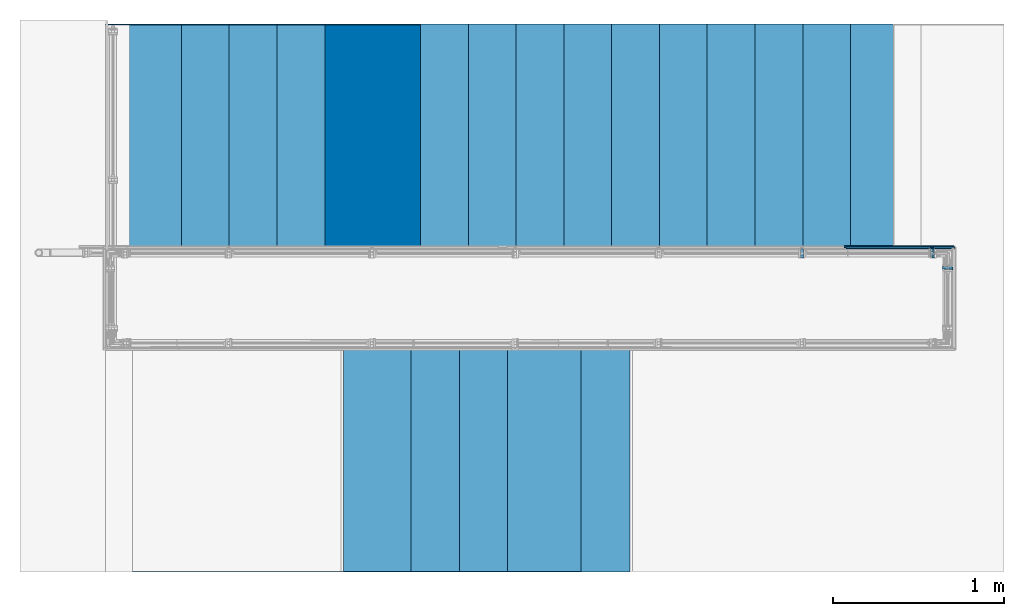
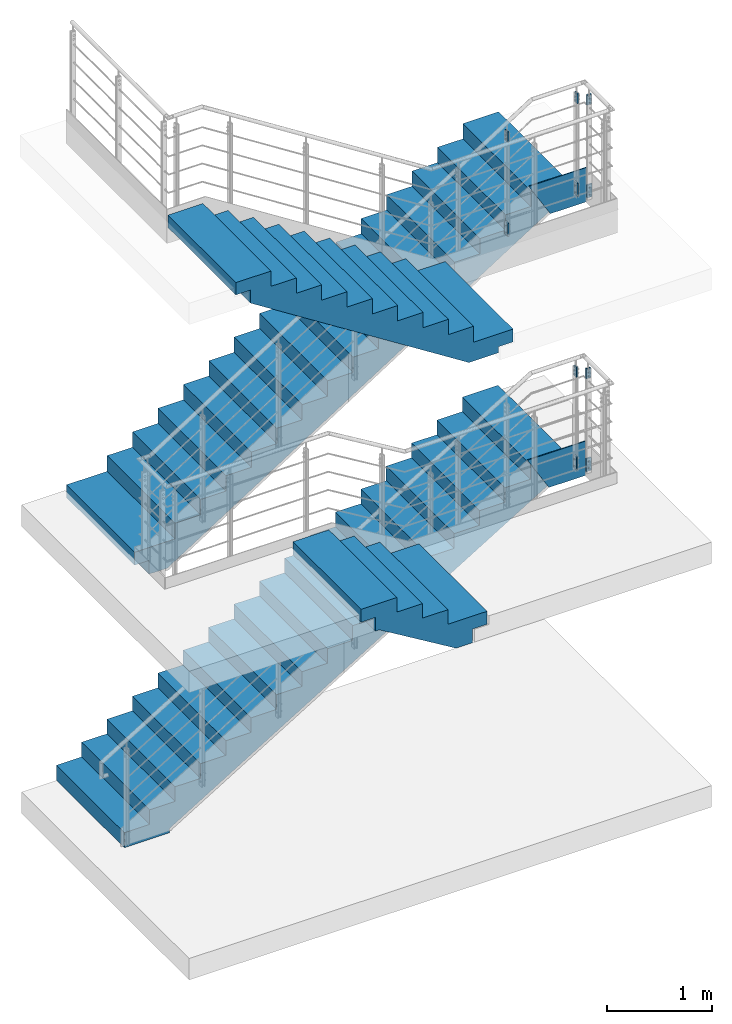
# One storey, part 20 of 98: 12 plates, 4 walls, 36 openings.
"""IFC2X3 building model written with IfcOpenShell, lengths in millimetres."""

import ifcopenshell
import ifcopenshell.guid

model = None  # the IFC model being written
_history = None  # IfcOwnerHistory: only IFC2X3 demands one
_inside = {}  # id of a spatial element -> (the spatial element, [elements in it])
_under = {}  # id of a project, library or spatial element -> (it, [spatial elements below it])
_declared = {}  # id of a project -> (the project, [libraries it declares])
_typed = {}  # id of a type object -> (the type object, [elements of that type])
_made_of = {}  # id of a material, layer set ... -> (it, [elements and type objects made of it])


def new_model(schema):
    """Start an empty IFC model of exactly this schema.

    Asked for "IFC4X3", IfcOpenShell would pick the latest addendum, in which some entities
    have other attributes; the version numbers below select the first issue.
    IFC2X3 requires an IfcOwnerHistory on every rooted entity: one is made here for all.
    """
    global model, _history
    if schema == "IFC4X3":
        model = ifcopenshell.file(schema_version=(4, 3, 0, 0))
    else:
        model = ifcopenshell.file(schema=schema)
    _inside.clear()
    _under.clear()
    _declared.clear()
    _typed.clear()
    _made_of.clear()
    _history = None
    if model.schema == "IFC2X3":
        org = make("IfcOrganization", Name="unknown")
        user = make(
            "IfcPersonAndOrganization",
            ThePerson=make("IfcPerson", FamilyName="unknown"),
            TheOrganization=org,
        )
        app = make(
            "IfcApplication",
            ApplicationDeveloper=org,
            Version="unknown",
            ApplicationFullName="unknown",
            ApplicationIdentifier="unknown",
        )
        _history = make(
            "IfcOwnerHistory",
            OwningUser=user,
            OwningApplication=app,
            ChangeAction="ADDED",
            CreationDate=0,
        )
    return model


def make(cls, **values):
    """One entity of the class cls with the attributes given. An attribute that is None is left unset."""
    return model.create_entity(
        cls, **{name: value for name, value in values.items() if value is not None}
    )


def entity(cls, *values):
    """Any entity or typed value of the class cls, its attributes in the order of the schema. None: left unset."""
    e = model.create_entity(cls)
    for i, value in enumerate(values):
        if value is not None:
            e[i] = value
    return e


def rooted(cls, **values):
    """An entity with a GlobalId (a new one), such as an element, a storey or a relation."""
    return make(cls, GlobalId=ifcopenshell.guid.new(), OwnerHistory=_history, **values)


def si_unit(unit_type, name, prefix=None):
    """IfcSIUnit, for example si_unit("LENGTHUNIT", "METRE", prefix="MILLI")."""
    return make("IfcSIUnit", UnitType=unit_type, Prefix=prefix, Name=name)


def converted_unit(unit_type, name, factor, base, dimensions=None, offset=None):
    """IfcConversionBasedUnit, such as the inch: factor (a typed value) times the base unit."""
    return make(
        "IfcConversionBasedUnit"
        if offset is None
        else "IfcConversionBasedUnitWithOffset",
        ConversionOffset=offset,
        Dimensions=None
        if dimensions is None
        else entity("IfcDimensionalExponents", *dimensions),
        UnitType=unit_type,
        Name=name,
        ConversionFactor=make(
            "IfcMeasureWithUnit", ValueComponent=factor, UnitComponent=base
        ),
    )


def assignment(units):
    """IfcUnitAssignment: the units of a project."""
    return None if units is None else make("IfcUnitAssignment", Units=units)


def point(xyz):
    """IfcCartesianPoint."""
    return None if xyz is None else make("IfcCartesianPoint", Coordinates=xyz)


def direction(xyz):
    """IfcDirection."""
    return None if xyz is None else make("IfcDirection", DirectionRatios=xyz)


def frame(location, z_axis=None, x_axis=None):
    """IfcAxis2Placement3D, a coordinate frame: its origin and axes. An axis left out is left unset."""
    return make(
        "IfcAxis2Placement3D",
        Location=point(location),
        Axis=direction(z_axis),
        RefDirection=direction(x_axis),
    )


def frame_2d(location, x_axis=None):
    """IfcAxis2Placement2D, a coordinate frame in the plane: its origin and x axis."""
    return make(
        "IfcAxis2Placement2D", Location=point(location), RefDirection=direction(x_axis)
    )


def origin():
    """The frame at (0, 0, 0) with its axes left unset."""
    return frame((0.0, 0.0, 0.0))


def origin_with_axes():
    """The frame at (0, 0, 0) with the z axis (0, 0, 1) and the x axis (1, 0, 0) written out."""
    return frame((0.0, 0.0, 0.0), z_axis=(0.0, 0.0, 1.0), x_axis=(1.0, 0.0, 0.0))


def place(relative_to, where):
    """IfcLocalPlacement: puts the frame where relative to a parent placement (None: the world)."""
    return make(
        "IfcLocalPlacement", PlacementRelTo=relative_to, RelativePlacement=where
    )


def context(
    kind, dimensions, precision=None, world=None, true_north=None, identifier=None
):
    """IfcGeometricRepresentationContext, for example the 3D "Model" context."""
    return make(
        "IfcGeometricRepresentationContext",
        ContextIdentifier=identifier,
        ContextType=kind,
        CoordinateSpaceDimension=dimensions,
        Precision=precision,
        WorldCoordinateSystem=world,
        TrueNorth=true_north,
    )


def project(units=None, contexts=None):
    """IfcProject with its units and contexts."""
    return rooted(
        "IfcProject",
        Name="project",
        RepresentationContexts=contexts,
        UnitsInContext=assignment(units),
    )


def spatial(cls, under=None, at=None, **own):
    """A site, building, storey or space (cls), placed at a placement, below another one or the project."""
    s = rooted(cls, ObjectPlacement=at, **own)
    if under is not None:
        _under.setdefault(under.id(), (under, []))[1].append(s)
    return s


def polyline(points):
    """IfcPolyline through the points."""
    return make("IfcPolyline", Points=[point(p) for p in points])


def profile(cls, at=None, kind="AREA", **sizes):
    """A parametric profile (cls). Its sizes go by their IFC names, for example OverallWidth=200.0."""
    return make(cls, ProfileType=kind, Position=at, **sizes)


def circle(**sizes):
    """IfcCircleProfileDef."""
    return profile("IfcCircleProfileDef", **sizes)


def outline(outer, holes=None, kind="AREA"):
    """IfcArbitraryClosedProfileDef: a profile drawn as a closed curve; with holes, ...WithVoids."""
    if holes is None:
        return make("IfcArbitraryClosedProfileDef", ProfileType=kind, OuterCurve=outer)
    return make(
        "IfcArbitraryProfileDefWithVoids",
        ProfileType=kind,
        OuterCurve=outer,
        InnerCurves=holes,
    )


def extrude(swept, where, along, depth):
    """IfcExtrudedAreaSolid: the profile swept, set in the frame where, extruded along a direction by depth."""
    return make(
        "IfcExtrudedAreaSolid",
        SweptArea=swept,
        Position=where,
        ExtrudedDirection=direction(along),
        Depth=depth,
    )


def shape(context_of_items, identifier, shape_type, items):
    """IfcShapeRepresentation: the items that make up one representation, for example the "Body"."""
    return make(
        "IfcShapeRepresentation",
        ContextOfItems=context_of_items,
        RepresentationIdentifier=identifier,
        RepresentationType=shape_type,
        Items=items,
    )


def material(Name=None, Category=None):
    """IfcMaterial."""
    return make("IfcMaterial", Name=Name, Category=Category)


def layer(
    of_material, thickness, ventilated=None, Name=None, Category=None, Priority=None
):
    """IfcMaterialLayer: one layer of a wall or slab, of a material (None: an air gap)."""
    return make(
        "IfcMaterialLayer",
        Material=of_material,
        LayerThickness=thickness,
        IsVentilated=ventilated,
        Name=Name,
        Category=Category,
        Priority=Priority,
    )


def layer_set(layers, Name=None):
    """IfcMaterialLayerSet."""
    return make("IfcMaterialLayerSet", MaterialLayers=layers, LayerSetName=Name)


def made_of(thing, what):
    """Note that an element or type object is made of a material, layer set ...; save() writes the relation."""
    if what is not None:
        _made_of.setdefault(what.id(), (what, []))[1].append(thing)
    return thing


def element(
    cls,
    number,
    at=None,
    inside=None,
    cuts=None,
    type_object=None,
    material=None,
    context=None,
    identifier="Body",
    shape_type=None,
    held_by="IfcProductDefinitionShape",
    body=None,
    shapes=None,
    **own,
):
    """One element of the class cls, such as IfcWall. Its Tag is "e" and its number.

    at: its placement. inside: the storey or other place that contains it. cuts: it is an
    opening in that element (IfcRelVoidsElement). A single representation is given by context,
    identifier, shape_type and body (its items); several are given by shapes. held_by: the class
    of the entity that holds the representations. save() writes the other relations.
    """
    e = rooted(cls, Tag="e%d" % number, ObjectPlacement=at, **own)
    if body is not None:
        shapes = [shape(context, identifier, shape_type, body)]
    if shapes is not None:
        e.Representation = make(held_by, Representations=shapes)
    if inside is not None:
        _inside.setdefault(inside.id(), (inside, []))[1].append(e)
    if cuts is not None:
        rooted(
            "IfcRelVoidsElement", RelatingBuildingElement=cuts, RelatedOpeningElement=e
        )
    if type_object is not None:
        _typed.setdefault(type_object.id(), (type_object, []))[1].append(e)
    return made_of(e, material)


def aggregate(whole, parts):
    """IfcRelAggregates: a whole, such as a stair, and the parts it consists of."""
    return rooted("IfcRelAggregates", RelatingObject=whole, RelatedObjects=parts)


def save(model, path):
    """Write the relations noted so far, then the file.

    IfcRelAggregates (storeys below a building ...), IfcRelContainedInSpatialStructure (elements
    in a storey), IfcRelDefinesByType, IfcRelAssociatesMaterial and IfcRelDeclares: one each for
    every whole, place, type object, material and project.
    """
    for whole, parts in _under.values():
        aggregate(whole, parts)
    for where, things in _inside.values():
        rooted(
            "IfcRelContainedInSpatialStructure",
            RelatedElements=things,
            RelatingStructure=where,
        )
    for kind, things in _typed.values():
        rooted("IfcRelDefinesByType", RelatedObjects=things, RelatingType=kind)
    for what, things in _made_of.values():
        rooted("IfcRelAssociatesMaterial", RelatedObjects=things, RelatingMaterial=what)
    for by, libraries in _declared.values():
        rooted("IfcRelDeclares", RelatingContext=by, RelatedDefinitions=libraries)
    model.write(path)


model = new_model("IFC2X3")

# Units and contexts
model_context = context("Model", 3, precision=1e-09, world=origin_with_axes())
ifc_project = project(units=[si_unit("LENGTHUNIT", "METRE", prefix="MILLI"), si_unit("AREAUNIT", "SQUARE_METRE"), si_unit("VOLUMEUNIT", "CUBIC_METRE"), converted_unit("PLANEANGLEUNIT", "DEGREE", entity("IfcPlaneAngleMeasure", 0.01745329), si_unit("PLANEANGLEUNIT", "RADIAN"), dimensions=[0, 0, 0, 0, 0, 0, 0])], contexts=[model_context])

# Site, building, storey
site_placement = place(None, origin_with_axes())
site = spatial("IfcSite", under=ifc_project, at=site_placement, Name="Maybachstra?e 2, 71563 Affalterbach", CompositionType="ELEMENT")
building_placement = place(site_placement, origin_with_axes())
building = spatial("IfcBuilding", under=site, at=building_placement, Name="Struktur 1", CompositionType="ELEMENT")
storey_placement = place(building_placement, origin_with_axes())
storey = spatial("IfcBuildingStorey", under=building, at=storey_placement, Name="Default Storey", CompositionType="ELEMENT", Elevation=0.0)

# Plate, openings
ifc_material_1 = material(Name="1.4301")
ifc_layer_1 = layer(ifc_material_1, 16.0)
ifc_layer_set_1 = layer_set([ifc_layer_1], Name="1.4301")
plate_1_placement = place(None, frame((11383.029157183, -45.0, 6833.877207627), z_axis=(1.0, 0.0, 0.0), x_axis=(0.0, 1.0, 0.0)))
plate_1 = element("IfcPlate", 1, at=plate_1_placement, inside=storey, material=ifc_layer_set_1, Name="-", ObjectType="-", context=model_context, shape_type="SweptSolid", body=[
    extrude(outline(polyline([(-25.0, -57.5), (25.0, -57.5), (25.0, 57.5), (-25.0, 57.5), (-25.0, -57.5)])), origin_with_axes(), (0.0, 0.0, -1.0), 16.0),
])
opening_1_placement = place(plate_1_placement, frame((-8.251, 32.499, 0.1), z_axis=(0.0, 0.0, 1.0), x_axis=(1.0, 0.0, 0.0)))
element("IfcOpeningElement", 2, at=opening_1_placement, cuts=plate_1, ObjectType="Opening", context=model_context, shape_type="SweptSolid", body=[
    extrude(outline(polyline([(0.0, 0.0), (16.502, 0.0), (16.502, 41.42654386), (0.0, 41.42654386), (0.0, 0.0)])), origin(), (0.0, 0.0, -1.0), 16.2),
])
opening_2_placement = place(plate_1_placement, frame((-6.501, 12.5, 0.5), z_axis=(0.0, 0.0, 1.0), x_axis=(1.0, 0.0, 0.0)))
element("IfcOpeningElement", 3, at=opening_2_placement, cuts=plate_1, ObjectType="Opening", context=model_context, shape_type="SweptSolid", body=[
    extrude(circle(Radius=6.501, at=frame_2d((6.501, 0.0), x_axis=(1.0, 0.0))), origin(), (0.0, 0.0, -1.0), 17.0),
])
opening_3_placement = place(plate_1_placement, frame((-6.501, -31.5, 0.5), z_axis=(0.0, 0.0, 1.0), x_axis=(1.0, 0.0, 0.0)))
element("IfcOpeningElement", 4, at=opening_3_placement, cuts=plate_1, ObjectType="Opening", context=model_context, shape_type="SweptSolid", body=[
    extrude(circle(Radius=6.501, at=frame_2d((6.501, 0.0), x_axis=(1.0, 0.0))), origin(), (0.0, 0.0, -1.0), 17.0),
])

ifc_material_2 = material(Name="S235JR")
ifc_layer_2 = layer(ifc_material_2, 16.0)
ifc_layer_set_2 = layer_set([ifc_layer_2], Name="S235JR")
plate_2_placement = place(None, frame((11383.029157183, -42.5, 5748.777207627), z_axis=(-1.0, 0.0, 0.0), x_axis=(0.0, -1.0, 0.0)))
plate_2 = element("IfcPlate", 5, at=plate_2_placement, inside=storey, material=ifc_layer_set_2, Name="-", ObjectType="-", context=model_context, shape_type="SweptSolid", body=[
    extrude(outline(polyline([(-27.5, -75.0), (27.5, -75.0), (27.5, 75.0), (-27.5, 75.0), (-27.5, -75.0)])), origin_with_axes(), (0.0, 0.0, 1.0), 16.0),
])
opening_4_placement = place(plate_2_placement, frame((9.501, 40.0, -0.5), z_axis=(0.0, 0.0, -1.0), x_axis=(-1.0, 0.0, 0.0)))
element("IfcOpeningElement", 6, at=opening_4_placement, cuts=plate_2, ObjectType="Opening", context=model_context, shape_type="SweptSolid", body=[
    extrude(circle(Radius=7.001, at=frame_2d((7.001, 0.0), x_axis=(1.0, 0.0))), origin(), (0.0, 0.0, -1.0), 17.0),
])
opening_5_placement = place(plate_2_placement, frame((9.501, -40.0, -0.5), z_axis=(0.0, 0.0, -1.0), x_axis=(-1.0, 0.0, 0.0)))
element("IfcOpeningElement", 7, at=opening_5_placement, cuts=plate_2, ObjectType="Opening", context=model_context, shape_type="SweptSolid", body=[
    extrude(circle(Radius=7.001, at=frame_2d((7.001, 0.0), x_axis=(1.0, 0.0))), origin(), (0.0, 0.0, -1.0), 17.0),
])

plate_3_placement = place(None, frame((12152.029157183, -45.0, 7012.6), z_axis=(1.0, 0.0, 0.0), x_axis=(0.0, 1.0, 0.0)))
plate_3 = element("IfcPlate", 8, at=plate_3_placement, inside=storey, material=ifc_layer_set_1, Name="-", ObjectType="-", context=model_context, shape_type="SweptSolid", body=[
    extrude(outline(polyline([(-25.0, -57.5), (25.0, -57.5), (25.0, 57.5), (-25.0, 57.5), (-25.0, -57.5)])), origin_with_axes(), (0.0, 0.0, -1.0), 16.0),
])
opening_6_placement = place(plate_3_placement, frame((-8.251, 32.499, 0.1), z_axis=(0.0, 0.0, 1.0), x_axis=(1.0, 0.0, 0.0)))
element("IfcOpeningElement", 9, at=opening_6_placement, cuts=plate_3, ObjectType="Opening", context=model_context, shape_type="SweptSolid", body=[
    extrude(outline(polyline([(0.0, 0.0), (16.502, 0.0), (16.502, 41.42654386), (0.0, 41.42654386), (0.0, 0.0)])), origin(), (0.0, 0.0, -1.0), 16.2),
])
opening_7_placement = place(plate_3_placement, frame((-6.501, 12.5, 0.5), z_axis=(0.0, 0.0, 1.0), x_axis=(1.0, 0.0, 0.0)))
element("IfcOpeningElement", 10, at=opening_7_placement, cuts=plate_3, ObjectType="Opening", context=model_context, shape_type="SweptSolid", body=[
    extrude(circle(Radius=6.501, at=frame_2d((6.501, 0.0), x_axis=(1.0, 0.0))), origin(), (0.0, 0.0, -1.0), 17.0),
])
opening_8_placement = place(plate_3_placement, frame((-6.501, -31.5, 0.5), z_axis=(0.0, 0.0, 1.0), x_axis=(1.0, 0.0, 0.0)))
element("IfcOpeningElement", 11, at=opening_8_placement, cuts=plate_3, ObjectType="Opening", context=model_context, shape_type="SweptSolid", body=[
    extrude(circle(Radius=6.501, at=frame_2d((6.501, 0.0), x_axis=(1.0, 0.0))), origin(), (0.0, 0.0, -1.0), 17.0),
])

plate_4_placement = place(None, frame((12152.029157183, -42.5, 5947.5), z_axis=(-1.0, 0.0, 0.0), x_axis=(0.0, -1.0, 0.0)))
plate_4 = element("IfcPlate", 12, at=plate_4_placement, inside=storey, material=ifc_layer_set_2, Name="-", ObjectType="-", context=model_context, shape_type="SweptSolid", body=[
    extrude(outline(polyline([(-27.5, -75.0), (27.5, -75.0), (27.5, 75.0), (-27.5, 75.0), (-27.5, -75.0)])), origin_with_axes(), (0.0, 0.0, 1.0), 16.0),
])
opening_9_placement = place(plate_4_placement, frame((9.501, 40.0, -0.5), z_axis=(0.0, 0.0, -1.0), x_axis=(-1.0, 0.0, 0.0)))
element("IfcOpeningElement", 13, at=opening_9_placement, cuts=plate_4, ObjectType="Opening", context=model_context, shape_type="SweptSolid", body=[
    extrude(circle(Radius=7.001, at=frame_2d((7.001, 0.0), x_axis=(1.0, 0.0))), origin(), (0.0, 0.0, -1.0), 17.0),
])
opening_10_placement = place(plate_4_placement, frame((9.501, -40.0, -0.5), z_axis=(0.0, 0.0, -1.0), x_axis=(-1.0, 0.0, 0.0)))
element("IfcOpeningElement", 14, at=opening_10_placement, cuts=plate_4, ObjectType="Opening", context=model_context, shape_type="SweptSolid", body=[
    extrude(circle(Radius=7.001, at=frame_2d((7.001, 0.0), x_axis=(1.0, 0.0))), origin(), (0.0, 0.0, -1.0), 17.0),
])

plate_5_placement = place(None, frame((12145.029157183, -40.0, 3820.1), z_axis=(1.0, 0.0, 0.0), x_axis=(0.0, 1.0, 0.0)))
plate_5 = element("IfcPlate", 15, at=plate_5_placement, inside=storey, material=ifc_layer_set_1, Name="-", ObjectType="-", context=model_context, shape_type="SweptSolid", body=[
    extrude(outline(polyline([(-25.0, -57.5), (25.0, -57.5), (25.0, 57.5), (-25.0, 57.5), (-25.0, -57.5)])), origin_with_axes(), (0.0, 0.0, -1.0), 16.0),
])
opening_11_placement = place(plate_5_placement, frame((-8.251, 32.499, 0.1), z_axis=(0.0, 0.0, 1.0), x_axis=(1.0, 0.0, 0.0)))
element("IfcOpeningElement", 16, at=opening_11_placement, cuts=plate_5, ObjectType="Opening", context=model_context, shape_type="SweptSolid", body=[
    extrude(outline(polyline([(0.0, 0.0), (16.502, 0.0), (16.502, 41.42654386), (0.0, 41.42654386), (0.0, 0.0)])), origin(), (0.0, 0.0, -1.0), 16.2),
])
opening_12_placement = place(plate_5_placement, frame((-6.501, 12.5, 0.5), z_axis=(0.0, 0.0, 1.0), x_axis=(1.0, 0.0, 0.0)))
element("IfcOpeningElement", 17, at=opening_12_placement, cuts=plate_5, ObjectType="Opening", context=model_context, shape_type="SweptSolid", body=[
    extrude(circle(Radius=6.501, at=frame_2d((6.501, 0.0), x_axis=(1.0, 0.0))), origin(), (0.0, 0.0, -1.0), 17.0),
])
opening_13_placement = place(plate_5_placement, frame((-6.501, -31.5, 0.5), z_axis=(0.0, 0.0, 1.0), x_axis=(1.0, 0.0, 0.0)))
element("IfcOpeningElement", 18, at=opening_13_placement, cuts=plate_5, ObjectType="Opening", context=model_context, shape_type="SweptSolid", body=[
    extrude(circle(Radius=6.501, at=frame_2d((6.501, 0.0), x_axis=(1.0, 0.0))), origin(), (0.0, 0.0, -1.0), 17.0),
])

plate_6_placement = place(None, frame((12145.029157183, -37.5, 2755.0), z_axis=(-1.0, 0.0, 0.0), x_axis=(0.0, -1.0, 0.0)))
plate_6 = element("IfcPlate", 19, at=plate_6_placement, inside=storey, material=ifc_layer_set_2, Name="-", ObjectType="-", context=model_context, shape_type="SweptSolid", body=[
    extrude(outline(polyline([(-27.5, -75.0), (27.5, -75.0), (27.5, 75.0), (-27.5, 75.0), (-27.5, -75.0)])), origin_with_axes(), (0.0, 0.0, 1.0), 16.0),
])
opening_14_placement = place(plate_6_placement, frame((9.501, 40.0, -0.5), z_axis=(0.0, 0.0, -1.0), x_axis=(-1.0, 0.0, 0.0)))
element("IfcOpeningElement", 20, at=opening_14_placement, cuts=plate_6, ObjectType="Opening", context=model_context, shape_type="SweptSolid", body=[
    extrude(circle(Radius=7.001, at=frame_2d((7.001, 0.0), x_axis=(1.0, 0.0))), origin(), (0.0, 0.0, -1.0), 17.0),
])
opening_15_placement = place(plate_6_placement, frame((9.501, -40.0, -0.5), z_axis=(0.0, 0.0, -1.0), x_axis=(-1.0, 0.0, 0.0)))
element("IfcOpeningElement", 21, at=opening_15_placement, cuts=plate_6, ObjectType="Opening", context=model_context, shape_type="SweptSolid", body=[
    extrude(circle(Radius=7.001, at=frame_2d((7.001, 0.0), x_axis=(1.0, 0.0))), origin(), (0.0, 0.0, -1.0), 17.0),
])

plate_7_placement = place(None, frame((12224.032157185, -135.0, 3820.1), z_axis=(0.0, 1.0, 0.0), x_axis=(-1.0, 0.0, 0.0)))
plate_7 = element("IfcPlate", 22, at=plate_7_placement, inside=storey, material=ifc_layer_set_1, Name="-", ObjectType="-", context=model_context, shape_type="SweptSolid", body=[
    extrude(outline(polyline([(-25.0, -57.5), (25.0, -57.5), (25.0, 57.5), (-25.0, 57.5), (-25.0, -57.5)])), origin_with_axes(), (0.0, 0.0, 1.0), 16.0),
])
opening_16_placement = place(plate_7_placement, frame((0.0, 0.0, -0.1), z_axis=(0.0, 0.0, 1.0), x_axis=(1.0, 0.0, 0.0)))
element("IfcOpeningElement", 23, at=opening_16_placement, cuts=plate_7, ObjectType="Opening", context=model_context, shape_type="SweptSolid", body=[
    extrude(outline(polyline([(-8.251, 32.499), (8.251, 32.499), (8.251, 73.92554386), (-8.251, 73.92554386), (-8.251, 32.499)])), origin(), (0.0, 0.0, 1.0), 16.2),
])
opening_17_placement = place(plate_7_placement, frame((0.0, -9.5, -0.5), z_axis=(0.0, 0.0, 1.0), x_axis=(1.0, 0.0, 0.0)))
element("IfcOpeningElement", 24, at=opening_17_placement, cuts=plate_7, ObjectType="Opening", context=model_context, shape_type="SweptSolid", body=[
    extrude(circle(Radius=6.501, at=frame_2d((0.0, 22.0), x_axis=(1.0, 0.0))), origin(), (0.0, 0.0, 1.0), 17.0),
])
opening_18_placement = place(plate_7_placement, frame((0.0, -9.5, -0.5), z_axis=(0.0, 0.0, 1.0), x_axis=(1.0, 0.0, 0.0)))
element("IfcOpeningElement", 25, at=opening_18_placement, cuts=plate_7, ObjectType="Opening", context=model_context, shape_type="SweptSolid", body=[
    extrude(circle(Radius=6.501, at=frame_2d((0.0, -22.0), x_axis=(1.0, 0.0))), origin(), (0.0, 0.0, 1.0), 17.0),
])

plate_8_placement = place(None, frame((12226.532157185, -135.0, 2755.0), z_axis=(0.0, 1.0, 0.0), x_axis=(-1.0, 0.0, 0.0)))
plate_8 = element("IfcPlate", 26, at=plate_8_placement, inside=storey, material=ifc_layer_set_2, Name="-", ObjectType="-", context=model_context, shape_type="SweptSolid", body=[
    extrude(outline(polyline([(-27.5, -75.0), (27.5, -75.0), (27.5, 75.0), (-27.5, 75.0), (-27.5, -75.0)])), origin_with_axes(), (0.0, 0.0, 1.0), 16.0),
])
opening_19_placement = place(plate_8_placement, frame((2.5, 0.0, -0.5), z_axis=(0.0, 0.0, 1.0), x_axis=(1.0, 0.0, 0.0)))
element("IfcOpeningElement", 27, at=opening_19_placement, cuts=plate_8, ObjectType="Opening", context=model_context, shape_type="SweptSolid", body=[
    extrude(circle(Radius=7.001, at=frame_2d((0.0, 40.0), x_axis=(1.0, 0.0))), origin(), (0.0, 0.0, 1.0), 17.0),
])
opening_20_placement = place(plate_8_placement, frame((2.5, 0.0, -0.5), z_axis=(0.0, 0.0, 1.0), x_axis=(1.0, 0.0, 0.0)))
element("IfcOpeningElement", 28, at=opening_20_placement, cuts=plate_8, ObjectType="Opening", context=model_context, shape_type="SweptSolid", body=[
    extrude(circle(Radius=7.001, at=frame_2d((0.0, -40.0), x_axis=(1.0, 0.0))), origin(), (0.0, 0.0, 1.0), 17.0),
])

plate_9_placement = place(None, frame((12231.032157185, -140.0, 7012.6), z_axis=(0.0, 1.0, 0.0), x_axis=(-1.0, 0.0, 0.0)))
plate_9 = element("IfcPlate", 29, at=plate_9_placement, inside=storey, material=ifc_layer_set_1, Name="-", ObjectType="-", context=model_context, shape_type="SweptSolid", body=[
    extrude(outline(polyline([(-25.0, -57.5), (25.0, -57.5), (25.0, 57.5), (-25.0, 57.5), (-25.0, -57.5)])), origin_with_axes(), (0.0, 0.0, 1.0), 16.0),
])
opening_21_placement = place(plate_9_placement, frame((0.0, 0.0, -0.1), z_axis=(0.0, 0.0, 1.0), x_axis=(1.0, 0.0, 0.0)))
element("IfcOpeningElement", 30, at=opening_21_placement, cuts=plate_9, ObjectType="Opening", context=model_context, shape_type="SweptSolid", body=[
    extrude(outline(polyline([(-8.251, 32.499), (8.251, 32.499), (8.251, 73.92554386), (-8.251, 73.92554386), (-8.251, 32.499)])), origin(), (0.0, 0.0, 1.0), 16.2),
])
opening_22_placement = place(plate_9_placement, frame((0.0, -9.5, -0.5), z_axis=(0.0, 0.0, 1.0), x_axis=(1.0, 0.0, 0.0)))
element("IfcOpeningElement", 31, at=opening_22_placement, cuts=plate_9, ObjectType="Opening", context=model_context, shape_type="SweptSolid", body=[
    extrude(circle(Radius=6.501, at=frame_2d((0.0, 22.0), x_axis=(1.0, 0.0))), origin(), (0.0, 0.0, 1.0), 17.0),
])
opening_23_placement = place(plate_9_placement, frame((0.0, -9.5, -0.5), z_axis=(0.0, 0.0, 1.0), x_axis=(1.0, 0.0, 0.0)))
element("IfcOpeningElement", 32, at=opening_23_placement, cuts=plate_9, ObjectType="Opening", context=model_context, shape_type="SweptSolid", body=[
    extrude(circle(Radius=6.501, at=frame_2d((0.0, -22.0), x_axis=(1.0, 0.0))), origin(), (0.0, 0.0, 1.0), 17.0),
])

plate_10_placement = place(None, frame((12233.532157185, -140.0, 5947.5), z_axis=(0.0, 1.0, 0.0), x_axis=(-1.0, 0.0, 0.0)))
plate_10 = element("IfcPlate", 33, at=plate_10_placement, inside=storey, material=ifc_layer_set_2, Name="-", ObjectType="-", context=model_context, shape_type="SweptSolid", body=[
    extrude(outline(polyline([(-27.5, -75.0), (27.5, -75.0), (27.5, 75.0), (-27.5, 75.0), (-27.5, -75.0)])), origin_with_axes(), (0.0, 0.0, 1.0), 16.0),
])
opening_24_placement = place(plate_10_placement, frame((2.5, 0.0, -0.5), z_axis=(0.0, 0.0, 1.0), x_axis=(1.0, 0.0, 0.0)))
element("IfcOpeningElement", 34, at=opening_24_placement, cuts=plate_10, ObjectType="Opening", context=model_context, shape_type="SweptSolid", body=[
    extrude(circle(Radius=7.001, at=frame_2d((0.0, 40.0), x_axis=(1.0, 0.0))), origin(), (0.0, 0.0, 1.0), 17.0),
])
opening_25_placement = place(plate_10_placement, frame((2.5, 0.0, -0.5), z_axis=(0.0, 0.0, 1.0), x_axis=(1.0, 0.0, 0.0)))
element("IfcOpeningElement", 35, at=opening_25_placement, cuts=plate_10, ObjectType="Opening", context=model_context, shape_type="SweptSolid", body=[
    extrude(circle(Radius=7.001, at=frame_2d((0.0, -40.0), x_axis=(1.0, 0.0))), origin(), (0.0, 0.0, 1.0), 17.0),
])

# Plates
ifc_layer_3 = layer(ifc_material_2, 10.0)
ifc_layer_set_3 = layer_set([ifc_layer_3], Name="S235JR")
plate_11_placement = place(None, frame((7278.028157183, -15.0, 3050.0), z_axis=(0.0, 1.0, 0.0), x_axis=(0.0, 0.0, 1.0)))
element("IfcPlate", 36, at=plate_11_placement, inside=storey, material=ifc_layer_set_3, Name="-", ObjectType="-", context=model_context, shape_type="SweptSolid", body=[
    extrude(outline(polyline([(2682.5, 4593.918944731), (3082.5, 4356.361584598), (3082.5, 4993.004000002), (2682.5, 4993.004000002), (2682.5, 4593.918944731)])), origin_with_axes(), (0.0, 0.0, 1.0), 10.0),
])
plate_12_placement = place(None, frame((7700.029157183, -10.0, 0.0), z_axis=(0.0, 1.0, 0.0), x_axis=(-1.0, 0.0, 0.0)))
element("IfcPlate", 37, at=plate_12_placement, inside=storey, material=ifc_layer_set_3, Name="-", ObjectType="-", context=model_context, shape_type="SweptSolid", body=[
    extrude(outline(polyline([(-4159.369726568, 2540.0), (-3922.192172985, 2940.0), (-4564.003000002, 2940.0), (-4564.003000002, 2540.0), (-4159.369726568, 2540.0)])), origin_with_axes(), (0.0, 0.0, 1.0), 10.0),
])

# Wall, openings
ifc_material_3 = material(Name="C25/30")
ifc_layer_4 = layer(ifc_material_3, 1300.0)
ifc_layer_set_4 = layer_set([ifc_layer_4], Name="C25/30")
wall_1_placement = place(None, frame((9674.030157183, 1295.0, 4566.25), z_axis=(0.0, -1.0, 0.0), x_axis=(1.0, 0.0, 0.0)))
wall_1 = element("IfcWall", 38, at=wall_1_placement, inside=storey, material=ifc_layer_set_4, Name="-", ObjectType="-", context=model_context, shape_type="SweptSolid", body=[
    extrude(outline(polyline([(-2384.0, -1496.25), (2384.0, -1496.25), (2384.0, 1496.25), (-2384.0, 1496.25), (-2384.0, -1496.25)])), origin_with_axes(), (0.0, 0.0, 1.0), 1300.0),
])
opening_26_placement = place(wall_1_placement, frame((0.0, 0.0, -0.1), z_axis=(0.0, 0.0, 1.0), x_axis=(1.0, 0.0, 0.0)))
element("IfcOpeningElement", 39, at=opening_26_placement, cuts=wall_1, ObjectType="Opening", context=model_context, shape_type="SweptSolid", body=[
    extrude(outline(polyline([(-2524.187159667, -1186.251), (-1935.999, -1186.251), (-1935.999, -1002.751), (-1655.6418571, -1002.751), (-1655.6418571, -824.251), (-1375.2847142, -824.251), (-1375.2847142, -645.751), (-1094.9275713, -645.751), (-1094.9275713, -467.251), (-814.5704284, -467.251), (-814.5704284, -288.751), (-534.2132855, -288.751), (-534.2132855, -110.251), (-253.8561426, -110.251), (-253.8561426, 68.249), (26.5010003, 68.249), (26.5010003, 246.749), (306.8581432, 246.749), (306.8581432, 425.249), (587.2152861, 425.249), (587.2152861, 603.749), (867.572429, 603.749), (867.572429, 782.249), (1147.9295719, 782.249), (1147.9295719, 960.749), (1428.2867148, 960.749), (1428.2867148, 1139.249), (1708.6438577, 1139.249), (1708.6438577, 1317.749), (1989.001, 1317.749), (1989.001, 1717.979453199), (-2733.412037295, 1717.979453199), (-2524.187159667, -1186.251)])), origin(), (0.0, 0.0, 1.0), 1300.2),
])
opening_27_placement = place(wall_1_placement, frame((0.0, 0.0, -0.1), z_axis=(0.0, 0.0, 1.0), x_axis=(1.0, 0.0, 0.0)))
element("IfcOpeningElement", 40, at=opening_27_placement, cuts=wall_1, ObjectType="Opening", context=model_context, shape_type="SweptSolid", body=[
    extrude(outline(polyline([(-2567.230878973, -1607.100589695), (-2223.999, -1607.100589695), (-2223.999, -1336.249), (-2567.230878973, -1336.249), (-2567.230878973, -1607.100589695)])), origin(), (0.0, 0.0, 1.0), 1300.2),
])
opening_28_placement = place(wall_1_placement, frame((0.0, 0.0, -0.1), z_axis=(0.0, 0.0, 1.0), x_axis=(1.0, 0.0, 0.0)))
element("IfcOpeningElement", 41, at=opening_28_placement, cuts=wall_1, ObjectType="Opening", context=model_context, shape_type="SweptSolid", body=[
    extrude(outline(polyline([(2533.758949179, -1764.707450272), (2533.758949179, 1346.251), (2223.999, 1346.251), (2223.999, 1186.251), (2192.091998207, 1186.251), (-2021.118995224, -1496.249451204), (-2021.118995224, -1584.703989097), (2533.758949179, -1764.707450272)])), origin(), (0.0, 0.0, 1.0), 1300.2),
])

wall_2_placement = place(None, frame((8837.530157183, -610.0, 6758.749999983), z_axis=(0.0, -1.0, 0.0), x_axis=(1.0, 0.0, 0.0)))
wall_2 = element("IfcWall", 42, at=wall_2_placement, inside=storey, material=ifc_layer_set_4, Name="-", ObjectType="-", context=model_context, shape_type="SweptSolid", body=[
    extrude(outline(polyline([(-1529.5, -916.249999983), (1529.5, -916.249999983), (1529.5, 916.249999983), (-1529.5, 916.249999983), (-1529.5, -916.249999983)])), origin_with_axes(), (0.0, 0.0, 1.0), 1300.0),
])
opening_29_placement = place(wall_2_placement, frame((0.0, 0.0, -0.1), z_axis=(0.0, 0.0, 1.0), x_axis=(1.0, 0.0, 0.0)))
element("IfcOpeningElement", 43, at=opening_29_placement, cuts=wall_2, ObjectType="Opening", context=model_context, shape_type="SweptSolid", body=[
    extrude(outline(polyline([(1041.47508283, -1025.765240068), (1041.47508283, -916.249451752), (-1369.499, 621.729992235), (-1369.499, 772.584333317), (-1762.788643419, 772.584333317), (-1762.788643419, -1246.670115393), (1041.47508283, -1025.765240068)])), origin(), (0.0, 0.0, 1.0), 1300.2),
])
opening_30_placement = place(wall_2_placement, frame((0.0, 0.0, -0.1), z_axis=(0.0, 0.0, 1.0), x_axis=(1.0, 0.0, 0.0)))
element("IfcOpeningElement", 44, at=opening_30_placement, cuts=wall_2, ObjectType="Opening", context=model_context, shape_type="SweptSolid", body=[
    extrude(outline(polyline([(1759.315344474, 1154.294986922), (-1142.501, 1154.294986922), (-1142.501, 737.873999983), (-862.876, 737.873999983), (-862.876, 559.498999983), (-583.251, 559.498999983), (-583.251, 381.123999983), (-303.626, 381.123999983), (-303.626, 202.748999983), (-24.001, 202.748999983), (-24.001, 24.373999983), (255.624, 24.373999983), (255.624, -154.001000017), (535.249, -154.001000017), (535.249, -332.376000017), (814.874, -332.376000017), (814.874, -510.751000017), (1094.499, -510.751000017), (1094.499, -696.250999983), (1744.092831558, -696.250999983), (1759.315344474, 1154.294986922)])), origin(), (0.0, 0.0, 1.0), 1300.2),
])
opening_31_placement = place(wall_2_placement, frame((0.0, 0.0, -0.1), z_axis=(0.0, 0.0, 1.0), x_axis=(1.0, 0.0, 0.0)))
element("IfcOpeningElement", 45, at=opening_31_placement, cuts=wall_2, ObjectType="Opening", context=model_context, shape_type="SweptSolid", body=[
    extrude(outline(polyline([(1369.499, -1136.247535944), (1847.202967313, -1136.247535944), (1847.202967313, -846.248999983), (1369.499, -846.248999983), (1369.499, -1136.247535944)])), origin(), (0.0, 0.0, 1.0), 1300.2),
])

wall_3_placement = place(None, frame((9385.030157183, -609.0, 2970.0), z_axis=(0.0, -1.0, 0.0), x_axis=(1.0, 0.0, 0.0)))
wall_3 = element("IfcWall", 46, at=wall_3_placement, inside=storey, material=ifc_layer_set_4, Name="-", ObjectType="-", context=model_context, shape_type="SweptSolid", body=[
    extrude(outline(polyline([(-695.0, -410.0), (695.0, -410.0), (695.0, 410.0), (-695.0, 410.0), (-695.0, -410.0)])), origin_with_axes(), (0.0, 0.0, 1.0), 1300.0),
])
opening_32_placement = place(wall_3_placement, frame((0.0, 0.0, -0.1), z_axis=(0.0, 0.0, 1.0), x_axis=(1.0, 0.0, 0.0)))
element("IfcOpeningElement", 47, at=opening_32_placement, cuts=wall_3, ObjectType="Opening", context=model_context, shape_type="SweptSolid", body=[
    extrude(outline(polyline([(352.111826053, -651.98545362), (352.111826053, -409.999435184), (-493.888895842, 100.001), (-534.999, 100.001), (-534.999, 260.001), (-927.240712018, 260.001), (-927.240712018, -614.778895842), (352.111826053, -651.98545362)])), origin(), (0.0, 0.0, 1.0), 1300.2),
])
opening_33_placement = place(wall_3_placement, frame((0.0, 0.0, -0.1), z_axis=(0.0, 0.0, 1.0), x_axis=(1.0, 0.0, 0.0)))
element("IfcOpeningElement", 48, at=opening_33_placement, cuts=wall_3, ObjectType="Opening", context=model_context, shape_type="SweptSolid", body=[
    extrude(outline(polyline([(534.999, -681.470964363), (997.146287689, -681.470964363), (997.146287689, -249.999), (534.999, -249.999), (534.999, -681.470964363)])), origin(), (0.0, 0.0, 1.0), 1300.2),
])
opening_34_placement = place(wall_3_placement, frame((0.0, 0.0, -0.1), z_axis=(0.0, 0.0, 1.0), x_axis=(1.0, 0.0, 0.0)))
element("IfcOpeningElement", 49, at=opening_34_placement, cuts=wall_3, ObjectType="Opening", context=model_context, shape_type="SweptSolid", body=[
    extrude(outline(polyline([(806.204844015, 607.153233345), (-300.001, 607.153233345), (-300.001, 239.999), (-18.001, 239.999), (-18.001, 69.999), (263.999, 69.999), (263.999, -100.001), (997.146593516, -100.001), (806.204844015, 607.153233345)])), origin(), (0.0, 0.0, 1.0), 1300.2),
])

wall_4_placement = place(None, frame((9617.530157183, 1300.0, 1420.0), z_axis=(0.0, -1.0, 0.0), x_axis=(1.0, 0.0, 0.0)))
wall_4 = element("IfcWall", 50, at=wall_4_placement, inside=storey, material=ifc_layer_set_4, Name="-", ObjectType="-", context=model_context, shape_type="SweptSolid", body=[
    extrude(outline(polyline([(-2437.5, -1450.0), (2437.5, -1450.0), (2437.5, 1450.0), (-2437.5, 1450.0), (-2437.5, -1450.0)])), origin_with_axes(), (0.0, 0.0, 1.0), 1300.0),
])
opening_35_placement = place(wall_4_placement, frame((0.0, 0.0, -0.1), z_axis=(0.0, 0.0, 1.0), x_axis=(1.0, 0.0, 0.0)))
element("IfcOpeningElement", 51, at=opening_35_placement, cuts=wall_4, ObjectType="Opening", context=model_context, shape_type="SweptSolid", body=[
    extrude(outline(polyline([(-2157.499, -1276.001), (-2157.499, -1105.626), (-1877.499, -1105.626), (-1877.499, -935.251), (-1597.499, -935.251), (-1597.499, -764.876), (-1317.499, -764.876), (-1317.499, -594.501), (-1037.499, -594.501), (-1037.499, -424.126), (-757.499, -424.126), (-757.499, -253.751), (-477.499, -253.751), (-477.499, -83.376), (-197.499, -83.376), (-197.499, 86.999), (82.501, 86.999), (82.501, 257.374), (362.501, 257.374), (362.501, 427.749), (642.501, 427.749), (642.501, 598.124), (922.501, 598.124), (922.501, 768.499), (1202.501, 768.499), (1202.501, 938.874), (1482.501, 938.874), (1482.501, 1109.249), (1762.501, 1109.249), (1762.501, 1279.624), (2042.501, 1279.624), (2042.501, 1591.984781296), (-2615.821086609, 1591.984781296), (-2615.821086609, -1276.001), (-2157.499, -1276.001)])), origin(), (0.0, 0.0, 1.0), 1300.2),
])
opening_36_placement = place(wall_4_placement, frame((0.0, 0.0, -0.1), z_axis=(0.0, 0.0, 1.0), x_axis=(1.0, 0.0, 0.0)))
element("IfcOpeningElement", 52, at=opening_36_placement, cuts=wall_4, ObjectType="Opening", context=model_context, shape_type="SweptSolid", body=[
    extrude(outline(polyline([(2720.299406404, -1843.334688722), (2720.299406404, 1300.001), (2277.499, 1300.001), (2277.499, 1140.001), (2236.263730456, 1140.001), (-1937.501, -1399.66030697), (-1937.501, -1631.06460301), (2720.299406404, -1843.334688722)])), origin(), (0.0, 0.0, 1.0), 1300.2),
])

save(model, "model.ifc")
